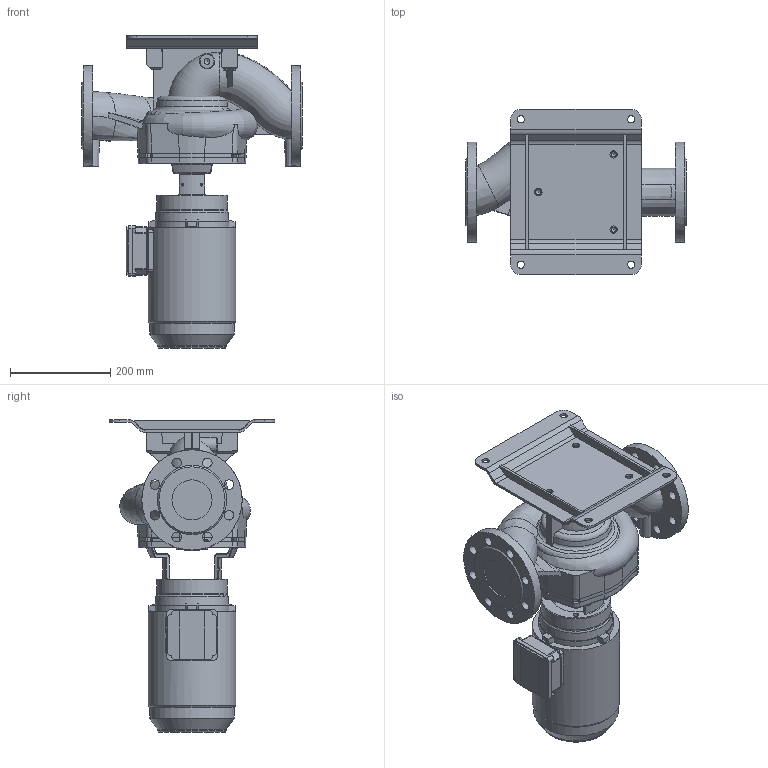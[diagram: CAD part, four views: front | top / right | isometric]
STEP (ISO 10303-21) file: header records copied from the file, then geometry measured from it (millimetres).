
FILE_DESCRIPTION (( 'STEP AP203' ), '1' );
FILE_NAME ('KI80-145_4_1,1kW.STEP', '2024-07-29T10:40:26', ( '' ), ( '' ), 'SwSTEP 2.0', 'SolidWorks 2023', '' );
FILE_SCHEMA (( 'CONFIG_CONTROL_DESIGN' ));
Length unit declared in the file: millimetre
Products named in the file (11): 230500; 230034; 220542; HMC3-90S-4P-B14_solid; 230406; 230407; KI80-145_4_1,1kW; 230033; 230501; 230031; 220543
Assembly tree (11 placements, depth 3):
  KI80-145_4_1,1kW
    HMC3-90S-4P-B14_solid
    230407
      230406
    230501
      230500
    220543
      220542
    230034
      230031
      230033  x2
Bounding box: 440 x 330.18 x 623.45 mm (x, y, z)
Volume: 16959294 mm3; surface area: 1091093.1 mm2
Topology: 7 solids, 7 shells, 862 faces, 2259 edges, 1403 vertices
Faces by surface type: plane 314, cylinder 278, bspline 96, cone 78, torus 74, sphere 22
Full cylindrical faces by diameter (mm): 5 x8, 6 x3, 6.8 x4, 7 x8, 10 x4, 10.2 x7, 11.8 x4, 14 x4, 14.5 x7, 19 x16, 80 x2, 95 x1, 136 x1, 140 x3, 164 x1, 168.6 x1, 174.6 x1, 189 x1, 200 x2
Entity records: 83484 total; most frequent: CARTESIAN_POINT 62644, ORIENTED_EDGE 4114, DIRECTION 3957, EDGE_CURVE 2057, AXIS2_PLACEMENT_3D 1543, VERTEX_POINT 1348, EDGE_LOOP 1073, FACE_OUTER_BOUND 935
